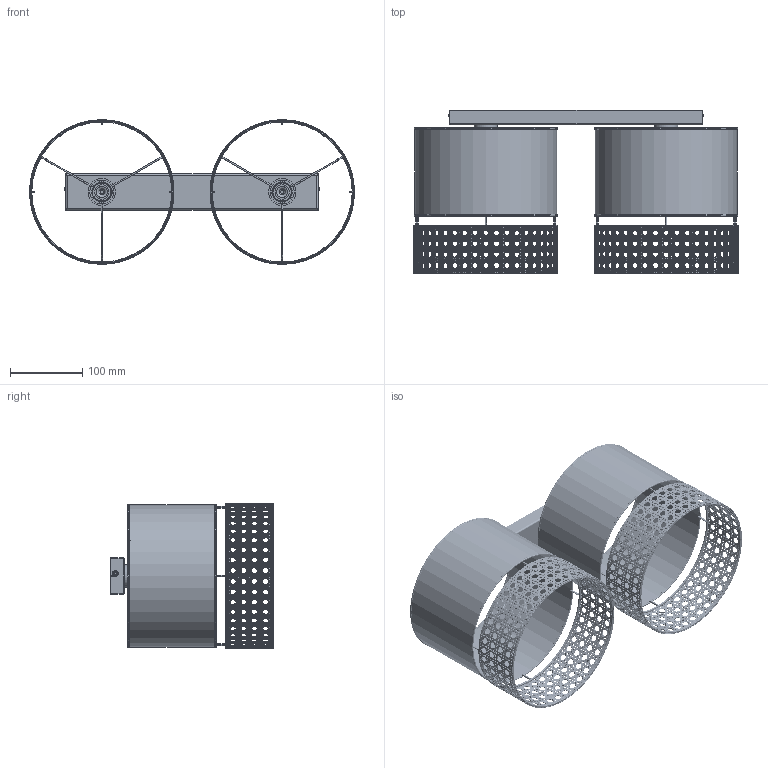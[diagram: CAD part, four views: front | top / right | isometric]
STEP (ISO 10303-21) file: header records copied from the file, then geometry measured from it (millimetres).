
FILE_DESCRIPTION(/* description */ (''),/* implementation_level */ '2;1');
FILE_NAME(/* name */ 'C:/Users/kubaw/OneDrive/Pulpit/Nowy folder (3)/6530_PAGLIA v5.step',/* time_stamp */ '2021-12-11T12:08:47+01:00',/* author */ (''),/* organization */ (''),/* preprocessor_version */ 'ST-DEVELOPER v18.1',/* originating_system */ 'Autodesk Translation Framework v10.10.0.1391',/* authorisation */ '');
FILE_SCHEMA (('AUTOMOTIVE_DESIGN { 1 0 10303 214 3 1 1 }'));
Length unit declared in the file: millimetre
Products named in the file (7): 6530_PAGLIA; KLOSZ_6532; Belka górna2_PAGLIA v1; ŚRUBA_ROLLO v1; ŚRUBA_ROLLO v1(Mirror); KLOSZ_6532_1; MOCOWANIE_6530
Assembly tree (7 placements, depth 3):
  6530_PAGLIA
    KLOSZ_6532
    Belka górna2_PAGLIA v1
      ŚRUBA_ROLLO v1
      ŚRUBA_ROLLO v1(Mirror)
    KLOSZ_6532_1
    MOCOWANIE_6530  x2
Bounding box: 450 x 226.2 x 200 mm (x, y, z)
Volume: 525071.3 mm3; surface area: 719694.6 mm2
Topology: 404 solids, 404 shells, 3854 faces, 9124 edges, 6084 vertices
Faces by surface type: cylinder 1506, plane 1210, bspline 1024, torus 114
Full cylindrical faces by diameter (mm): 2 x18, 4 x2, 8 x2, 19.84 x2, 24.929 x20, 26.88 x2, 28.8 x6, 32 x2, 33 x2, 33.12 x2, 38 x2, 193.978 x8, 194.978 x2, 196.978 x2, 197.978 x8, 198 x20, 200 x20
Entity records: 243607 total; most frequent: CARTESIAN_POINT 161814, ORIENTED_EDGE 17984, DIRECTION 14700, EDGE_CURVE 8992, AXIS2_PLACEMENT_3D 6025, VERTEX_POINT 5994, EDGE_LOOP 3854, FACE_OUTER_BOUND 3785
